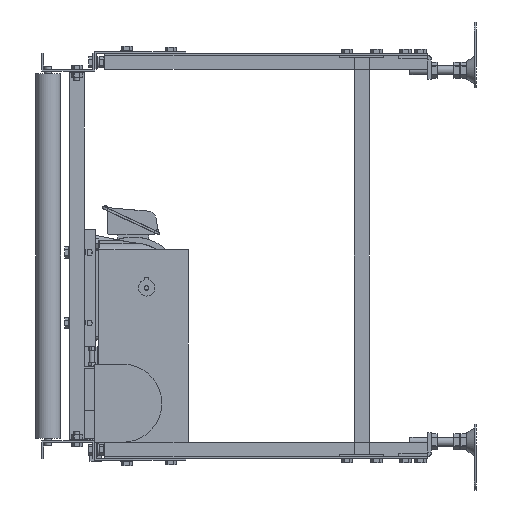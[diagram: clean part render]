
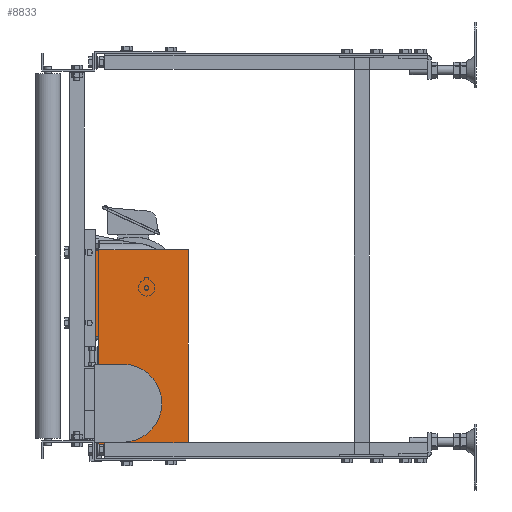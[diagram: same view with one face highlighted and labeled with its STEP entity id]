
A CAD part, left-side view. The second image highlights one B-rep face of the part: STEP entity #8833.
In plain terms, the highlighted planar face has unit normal (-1, 0, 0).
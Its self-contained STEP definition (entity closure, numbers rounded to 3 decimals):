
#8833=ADVANCED_FACE('',(#29521),#29520,.T.);
#29520=PLANE('',#64860);
#29521=FACE_OUTER_BOUND('',#64861,.T.);
#64857=CARTESIAN_POINT('',(326.8,-75.7,-354.2));
#64858=DIRECTION('',(-1.,0.,0.));
#64859=DIRECTION('',(0.,-1.,0.));
#64860=AXIS2_PLACEMENT_3D('',#64857,#64858,#64859);
#64861=EDGE_LOOP('',(#86423,#86424,#86425,#86426,#86427,#86428,#86429,#86430,#86431,#86432,#86433,#86434));
#86423=ORIENTED_EDGE('',*,*,#102990,.T.);
#86424=ORIENTED_EDGE('',*,*,#103006,.F.);
#86425=ORIENTED_EDGE('',*,*,#102988,.T.);
#86426=ORIENTED_EDGE('',*,*,#102976,.T.);
#86427=ORIENTED_EDGE('',*,*,#102974,.T.);
#86428=ORIENTED_EDGE('',*,*,#102999,.F.);
#86429=ORIENTED_EDGE('',*,*,#102998,.F.);
#86430=ORIENTED_EDGE('',*,*,#103008,.F.);
#86431=ORIENTED_EDGE('',*,*,#103009,.T.);
#86432=ORIENTED_EDGE('',*,*,#102981,.T.);
#86433=ORIENTED_EDGE('',*,*,#103004,.F.);
#86434=ORIENTED_EDGE('',*,*,#103003,.T.);
#102974=EDGE_CURVE('',#138017,#138031,#138038,.T.);
#102976=EDGE_CURVE('',#138051,#138017,#138052,.T.);
#102981=EDGE_CURVE('',#138064,#138079,#138086,.T.);
#102988=EDGE_CURVE('',#138133,#138051,#138134,.T.);
#102990=EDGE_CURVE('',#138146,#138147,#138148,.T.);
#102998=EDGE_CURVE('',#138195,#138180,#138202,.T.);
#102999=EDGE_CURVE('',#138180,#138031,#138208,.T.);
#103003=EDGE_CURVE('',#138221,#138146,#138234,.T.);
#103004=EDGE_CURVE('',#138221,#138079,#138240,.T.);
#103006=EDGE_CURVE('',#138133,#138147,#138252,.T.);
#103008=EDGE_CURVE('',#138264,#138195,#138265,.T.);
#103009=EDGE_CURVE('',#138264,#138064,#138271,.T.);
#138017=VERTEX_POINT('',#197851);
#138031=VERTEX_POINT('',#197859);
#138038=LINE('',#197863,#197864);
#138051=VERTEX_POINT('',#197870);
#138052=LINE('',#197871,#197872);
#138064=VERTEX_POINT('',#197877);
#138079=VERTEX_POINT('',#197886);
#138086=LINE('',#197890,#197891);
#138133=VERTEX_POINT('',#197916);
#138134=LINE('',#197917,#197918);
#138146=VERTEX_POINT('',#197923);
#138147=VERTEX_POINT('',#197924);
#138148=LINE('',#197925,#197926);
#138180=VERTEX_POINT('',#197942);
#138195=VERTEX_POINT('',#197951);
#138202=LINE('',#197955,#197956);
#138208=LINE('',#197958,#197959);
#138221=VERTEX_POINT('',#197965);
#138234=LINE('',#197972,#197973);
#138240=LINE('',#197975,#197976);
#138252=LINE('',#197981,#197982);
#138264=VERTEX_POINT('',#197987);
#138265=LINE('',#197988,#197989);
#138271=LINE('',#197991,#197992);
#197851=CARTESIAN_POINT('',(326.8,-100.,-323.));
#197859=CARTESIAN_POINT('',(326.8,-100.,-344.2));
#197863=CARTESIAN_POINT('',(326.8,-100.,-323.));
#197864=VECTOR('',#197865,21.2);
#197865=DIRECTION('',(0.,0.,-1.));
#197870=CARTESIAN_POINT('',(326.8,-107.,-323.));
#197871=CARTESIAN_POINT('',(326.8,-107.,-323.));
#197872=VECTOR('',#197873,7.);
#197873=DIRECTION('',(0.,1.,0.));
#197877=CARTESIAN_POINT('',(326.8,-260.,10.8));
#197886=CARTESIAN_POINT('',(326.8,-86.9,10.8));
#197890=CARTESIAN_POINT('',(326.8,-260.,10.8));
#197891=VECTOR('',#197892,173.1);
#197892=DIRECTION('',(0.,1.,0.));
#197916=CARTESIAN_POINT('',(326.8,-107.,-136.9));
#197917=CARTESIAN_POINT('',(326.8,-107.,-136.9));
#197918=VECTOR('',#197919,186.1);
#197919=DIRECTION('',(0.,0.,-1.));
#197923=CARTESIAN_POINT('',(326.8,-85.7,30.8));
#197924=CARTESIAN_POINT('',(326.8,-85.7,-136.9));
#197925=CARTESIAN_POINT('',(326.8,-85.7,30.8));
#197926=VECTOR('',#197927,167.7);
#197927=DIRECTION('',(0.,0.,-1.));
#197942=CARTESIAN_POINT('',(326.8,-101.2,-344.2));
#197951=CARTESIAN_POINT('',(326.8,-101.2,-324.2));
#197955=CARTESIAN_POINT('',(326.8,-101.2,-324.2));
#197956=VECTOR('',#197957,20.);
#197957=DIRECTION('',(0.,0.,-1.));
#197958=CARTESIAN_POINT('',(326.8,-101.2,-344.2));
#197959=VECTOR('',#197960,1.2);
#197960=DIRECTION('',(0.,1.,0.));
#197965=CARTESIAN_POINT('',(326.8,-86.9,30.8));
#197972=CARTESIAN_POINT('',(326.8,-86.9,30.8));
#197973=VECTOR('',#197974,1.2);
#197974=DIRECTION('',(0.,1.,0.));
#197975=CARTESIAN_POINT('',(326.8,-86.9,30.8));
#197976=VECTOR('',#197977,20.);
#197977=DIRECTION('',(0.,0.,-1.));
#197981=CARTESIAN_POINT('',(326.8,-107.,-136.9));
#197982=VECTOR('',#197983,21.3);
#197983=DIRECTION('',(0.,1.,0.));
#197987=CARTESIAN_POINT('',(326.8,-260.,-324.2));
#197988=CARTESIAN_POINT('',(326.8,-260.,-324.2));
#197989=VECTOR('',#197990,158.8);
#197990=DIRECTION('',(0.,1.,0.));
#197991=CARTESIAN_POINT('',(326.8,-260.,-324.2));
#197992=VECTOR('',#197993,335.);
#197993=DIRECTION('',(0.,0.,1.));
